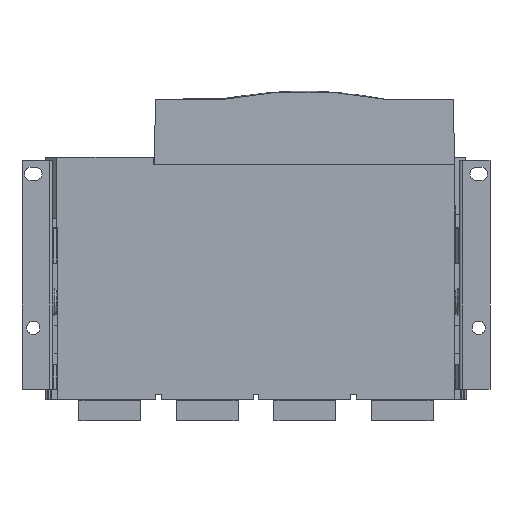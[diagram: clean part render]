
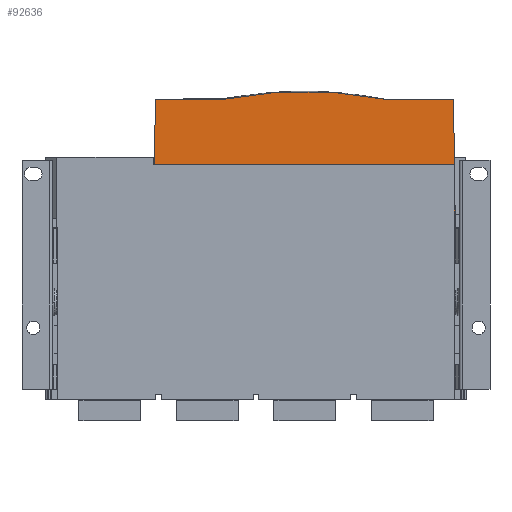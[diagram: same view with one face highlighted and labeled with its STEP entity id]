
A CAD part, front view. The second image highlights one B-rep face of the part: STEP entity #92636.
In plain terms, the highlighted planar face has unit normal (0, -1, 0.014).
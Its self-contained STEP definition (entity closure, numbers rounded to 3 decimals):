
#1533 = VECTOR ( 'NONE', #96845, 1000. ) ;
#3066 = ORIENTED_EDGE ( 'NONE', *, *, #66842, .T. ) ;
#4623 = LINE ( 'NONE', #58695, #87319 ) ;
#7471 = DIRECTION ( 'NONE',  ( 1., 0., 0. ) ) ;
#8806 = DIRECTION ( 'NONE',  ( -1., 0., 0. ) ) ;
#11534 = VERTEX_POINT ( 'NONE', #102454 ) ;
#12128 = CARTESIAN_POINT ( 'NONE',  ( 39.705, 74.117, 540.213 ) ) ;
#12504 = VERTEX_POINT ( 'NONE', #31619 ) ;
#12519 = ORIENTED_EDGE ( 'NONE', *, *, #69528, .F. ) ;
#17915 = DIRECTION ( 'NONE',  ( 1., 0., 0. ) ) ;
#26867 = VECTOR ( 'NONE', #7471, 1000. ) ;
#30181 = DIRECTION ( 'NONE',  ( -0.014, -0.014, -1. ) ) ;
#30639 = CARTESIAN_POINT ( 'NONE',  ( -29.295, 72.376, 415.563 ) ) ;
#31619 = CARTESIAN_POINT ( 'NONE',  ( -28.443, 73.228, 476.563 ) ) ;
#36855 = ORIENTED_EDGE ( 'NONE', *, *, #62912, .T. ) ;
#41446 = VERTEX_POINT ( 'NONE', #45988 ) ;
#43226 = EDGE_CURVE ( 'NONE', #59383, #12504, #106045, .T. ) ;
#45988 = CARTESIAN_POINT ( 'NONE',  ( 39.705, 74.117, 540.213 ) ) ;
#53649 = EDGE_CURVE ( 'NONE', #11534, #54413, #134634, .T. ) ;
#54413 = VERTEX_POINT ( 'NONE', #111766 ) ;
#56670 = VERTEX_POINT ( 'NONE', #70285 ) ;
#58499 = LINE ( 'NONE', #71226, #124387 ) ;
#58548 = EDGE_CURVE ( 'NONE', #117964, #11534, #115651, .T. ) ;
#58695 = CARTESIAN_POINT ( 'NONE',  ( -40.295, 74.117, 540.213 ) ) ;
#59383 = VERTEX_POINT ( 'NONE', #85111 ) ;
#59616 = DIRECTION ( 'NONE',  ( 1., 0., 0. ) ) ;
#60233 = PLANE ( 'NONE',  #87027 ) ;
#62912 = EDGE_CURVE ( 'NONE', #117964, #41446, #97778, .T. ) ;
#66842 = EDGE_CURVE ( 'NONE', #56670, #54413, #58499, .T. ) ;
#66932 = DIRECTION ( 'NONE',  ( 1., 0., 0. ) ) ;
#69528 = EDGE_CURVE ( 'NONE', #59383, #41446, #4623, .T. ) ;
#70206 = VECTOR ( 'NONE', #66932, 1000. ) ;
#70285 = CARTESIAN_POINT ( 'NONE',  ( 263.505, 72.376, 415.563 ) ) ;
#71226 = CARTESIAN_POINT ( 'NONE',  ( -40.295, 72.376, 415.563 ) ) ;
#71608 = LINE ( 'NONE', #81527, #90160 ) ;
#73966 = CARTESIAN_POINT ( 'NONE',  ( 144.051, 74.262, 550.618 ) ) ;
#74931 = ORIENTED_EDGE ( 'NONE', *, *, #58548, .F. ) ;
#77393 = ORIENTED_EDGE ( 'NONE', *, *, #43226, .T. ) ;
#81092 = CARTESIAN_POINT ( 'NONE',  ( 260.905, 73.228, 476.563 ) ) ;
#81527 = CARTESIAN_POINT ( 'NONE',  ( 263.505, 71.717, 368.34 ) ) ;
#85111 = CARTESIAN_POINT ( 'NONE',  ( -27.554, 74.117, 540.213 ) ) ;
#85880 = LINE ( 'NONE', #81092, #26867 ) ;
#87027 = AXIS2_PLACEMENT_3D ( 'NONE', #135688, #117213, #8806 ) ;
#87319 = VECTOR ( 'NONE', #59616, 1000. ) ;
#88478 = EDGE_LOOP ( 'NONE', ( #77393, #102614, #126378, #3066, #134576, #74931, #36855, #12519 ) ) ;
#90160 = VECTOR ( 'NONE', #134814, 1000. ) ;
#92636 = ADVANCED_FACE ( 'NONE', ( #102329 ), #60233, .T. ) ;
#96845 = DIRECTION ( 'NONE',  ( 0.014, -0.014, -1. ) ) ;
#97778 =( BOUNDED_CURVE ( )  B_SPLINE_CURVE ( 3, ( #128615, #73966, #108312, #12128 ),
 .UNSPECIFIED., .F., .T. ) 
 B_SPLINE_CURVE_WITH_KNOTS ( ( 4, 4 ),
 ( 6.084, 6.482 ),
 .UNSPECIFIED. ) 
 CURVE ( )  GEOMETRIC_REPRESENTATION_ITEM ( )  RATIONAL_B_SPLINE_CURVE ( ( 1., 0.987, 0.987, 1. ) ) 
 REPRESENTATION_ITEM ( '' )  );
#98542 = CARTESIAN_POINT ( 'NONE',  ( -40.295, 74.117, 540.213 ) ) ;
#100086 = EDGE_CURVE ( 'NONE', #12504, #134083, #85880, .T. ) ;
#102329 = FACE_OUTER_BOUND ( 'NONE', #88478, .T. ) ;
#102454 = CARTESIAN_POINT ( 'NONE',  ( 262.965, 74.117, 540.213 ) ) ;
#102614 = ORIENTED_EDGE ( 'NONE', *, *, #100086, .T. ) ;
#106045 = LINE ( 'NONE', #30639, #127964 ) ;
#108312 = CARTESIAN_POINT ( 'NONE',  ( 91.359, 74.262, 550.618 ) ) ;
#111766 = CARTESIAN_POINT ( 'NONE',  ( 264.705, 72.376, 415.563 ) ) ;
#113803 = EDGE_CURVE ( 'NONE', #134083, #56670, #71608, .T. ) ;
#115651 = LINE ( 'NONE', #98542, #70206 ) ;
#117213 = DIRECTION ( 'NONE',  ( 0., -1., 0.014 ) ) ;
#117964 = VERTEX_POINT ( 'NONE', #133334 ) ;
#124387 = VECTOR ( 'NONE', #17915, 1000. ) ;
#126378 = ORIENTED_EDGE ( 'NONE', *, *, #113803, .T. ) ;
#127964 = VECTOR ( 'NONE', #30181, 1000. ) ;
#128615 = CARTESIAN_POINT ( 'NONE',  ( 195.705, 74.117, 540.213 ) ) ;
#131202 = CARTESIAN_POINT ( 'NONE',  ( 263.505, 73.228, 476.563 ) ) ;
#133334 = CARTESIAN_POINT ( 'NONE',  ( 195.705, 74.117, 540.213 ) ) ;
#134083 = VERTEX_POINT ( 'NONE', #131202 ) ;
#134576 = ORIENTED_EDGE ( 'NONE', *, *, #53649, .F. ) ;
#134634 = LINE ( 'NONE', #138775, #1533 ) ;
#134814 = DIRECTION ( 'NONE',  ( 0., -0.014, -1. ) ) ;
#135688 = CARTESIAN_POINT ( 'NONE',  ( -40.295, 72.376, 415.563 ) ) ;
#138775 = CARTESIAN_POINT ( 'NONE',  ( 264.646, 72.436, 419.82 ) ) ;
